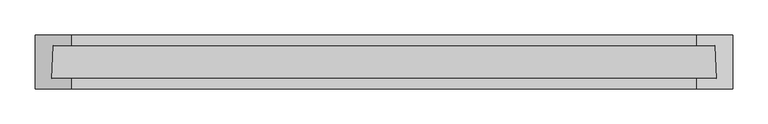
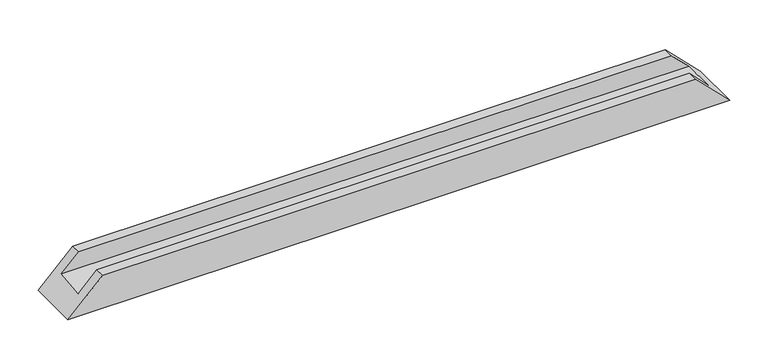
"""IFC4 building model written with IfcOpenShell, lengths in millimetres: proxy geometry, Weiku - Montante - Caixilho duplo 02.2.01.002 : Weiku - Montante - Caixilho duplo 02.2.01.002."""

from ifc_helpers import new_model, si_unit, origin, place, context, project, spatial, faceted_brep, source, transform, mapped, element, save


def generic_models_cdbc3ca8(model_context):
    return source(origin(), model_context, "Body", "Brep", [
        faceted_brep([(-471.5, -15.0, 26.0), (471.5, -15.0, 26.0), (445.5, -15.0, 52.0), (-445.5, -15.0, 52.0), (-473.7229744, -62.0, 23.7770256), (473.7229744, -62.0, 23.7770256), (-445.5, -62.0, 52.0), (445.5, -62.0, 52.0), (-445.5, -77.0, 52.0), (445.5, -77.0, 52.0), (497.5, -77.0, 0.0), (-497.5, -77.0, 0.0), (-497.5, 0.0, 0.0), (497.5, 0.0, 0.0), (-445.5, 0.0, 52.0), (445.5, 0.0, 52.0)], [[[0, 1, 2, 3]], [[4, 5, 1, 0]], [[6, 7, 5, 4]], [[8, 9, 7, 6]], [[10, 9, 8, 11]], [[11, 12, 13, 10]], [[12, 14, 15, 13]], [[3, 2, 15, 14]], [[3, 14, 12, 11, 8, 6, 4, 0]], [[1, 5, 7, 9, 10, 13, 15, 2]]]),
    ])


if __name__ == "__main__":
    model = new_model("IFC4")
    model_context = context("Model", 3, world=origin())
    ifc_project = project(units=[si_unit("LENGTHUNIT", "METRE", prefix="MILLI")], contexts=[model_context])
    site = spatial("IfcSite", under=ifc_project)
    building = spatial("IfcBuilding", under=site)
    placement = place(None, origin())
    generic_models_shape = generic_models_cdbc3ca8(model_context)
    element("IfcBuildingElementProxy", 1, Name="Weiku - Montante - Caixilho duplo 02.2.01.002 : Weiku - Montante - Caixilho duplo 02.2.01.002", ObjectType="Weiku - Montante - Caixilho duplo 02.2.01.002 : Weiku - Montante - Caixilho duplo 02.2.01.002", at=placement, inside=building, context=model_context, shape_type="MappedRepresentation", body=[
        mapped(generic_models_shape, transform((0.0, 0.0, 0.0), x_axis=(1.0, 0.0, 0.0), y_axis=(0.0, 1.0, 0.0), z_axis=(0.0, 0.0, 1.0))),
    ])
    save(model, "model.ifc")
